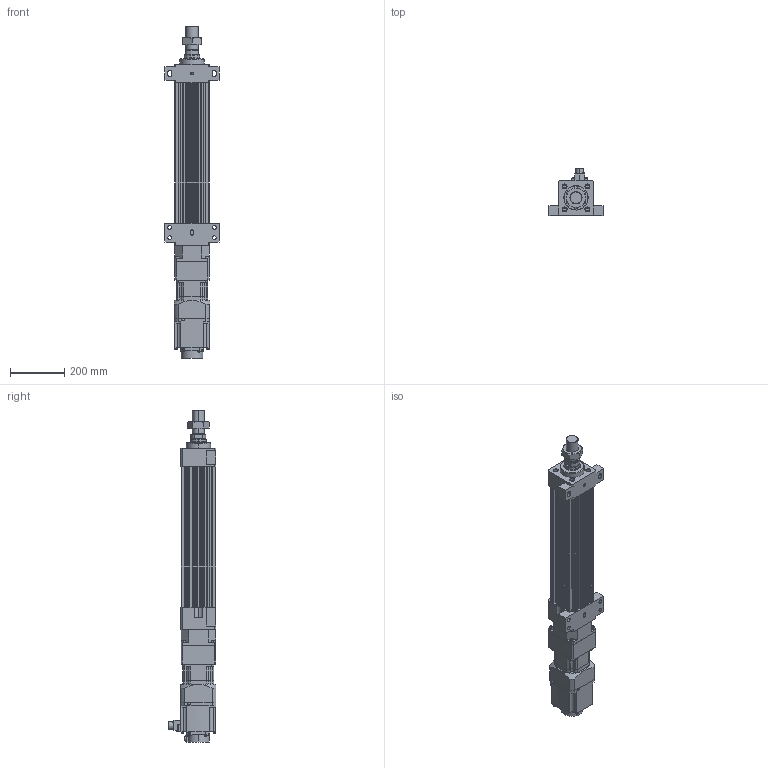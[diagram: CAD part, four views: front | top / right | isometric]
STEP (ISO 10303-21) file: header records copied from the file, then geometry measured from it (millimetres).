
FILE_DESCRIPTION (( 'STEP AP203' ), '1' );
FILE_NAME ('HES130NS(FS)(HS)-S300-W015G00-M-FFB.STEP', '2023-01-30T09:10:23', ( 'tms' ), ( '' ), 'SwSTEP 2.0', 'SolidWorks 2013', '' );
FILE_SCHEMA (( 'CONFIG_CONTROL_DESIGN' ));
Length unit declared in the file: millimetre
Products named in the file (8): HES130 ROD M ST300; M45X1.5P; AB115-003[HG-SR152]; P0401400706; HG-SR152; AB1151; HES130-S300-G120-FFB; HES130NS(FS)(HS)-S300-W015G00-M-FFB
Assembly tree (7 placements, depth 3):
  HES130NS(FS)(HS)-S300-W015G00-M-FFB
    HES130-S300-G120-FFB
    HES130 ROD M ST300
    M45X1.5P
    AB115-003[HG-SR152]
      AB1151
      P0401400706
    HG-SR152
Bounding box: 200 x 177.49 x 1229.5 mm (x, y, z)
Volume: 9832303.1 mm3; surface area: 1237428 mm2
Topology: 4 solids, 15 shells, 1211 faces, 3070 edges, 1998 vertices
Faces by surface type: plane 571, cylinder 546, cone 82, bspline 8, torus 4
Entity records: 38310 total; most frequent: CARTESIAN_POINT 7264, DIRECTION 6633, ORIENTED_EDGE 6092, EDGE_CURVE 3056, AXIS2_PLACEMENT_3D 2435, VERTEX_POINT 1998, LINE 1763, VECTOR 1763
